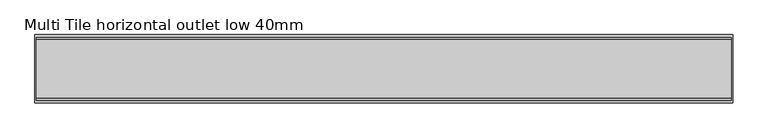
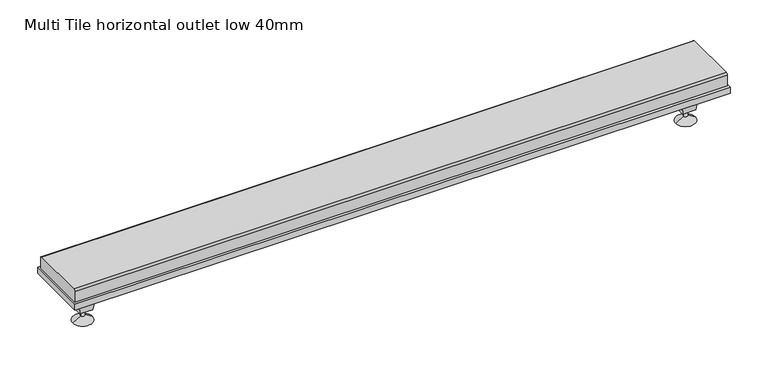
"""IFC4 building model written with IfcOpenShell, lengths in millimetres: sanitary terminal geometry, NLRS_PF_52_UN_Multi Tile uitloop_Easydrain : Multi Tile horizontal outlet low 40mm."""

from ifc_helpers import new_model, si_unit, point, frame, frame_2d, origin, place, context, project, spatial, polyline, circle_curve, trimmed, segment, composite_curve, outline, extrude, faceted_brep, source, transform, mapped, element, save
from ifc_brep_helpers import plane_surface, cylinder_surface, revolved_surface, advanced_brep


def multi_tile_horizontal_outlet_low_40mm_311f17a8(model_context):
    return source(origin(), model_context, "Body", "SolidModel", [
        advanced_brep(
        [(713.0, 0.0, -70.0), (707.0, 0.0, -70.0), (710.0, 0.0, -70.0), (713.0, 0.0, -81.5), (707.0, 0.0, -81.5), (725.0, 0.0, -89.0), (695.0, 0.0, -89.0), (710.0, 0.0, -89.0)],
        [
            (0, 1, circle_curve(frame((710.0, 0.0, -70.0), z_axis=(0.0, 0.0, 1.0), x_axis=(-1.0, 0.0, 0.0)), 3.0)),
            (1, 2),
            (2, 0),
            (1, 0, circle_curve(frame((710.0, 0.0, -70.0), z_axis=(0.0, 0.0, 1.0), x_axis=(-1.0, 0.0, 0.0)), 3.0)),
            (3, 4, circle_curve(frame((710.0, 0.0, -81.5), z_axis=(0.0, 0.0, 1.0), x_axis=(-1.0, 0.0, 0.0)), 3.0)),
            (4, 1),
            (0, 3),
            (4, 3, circle_curve(frame((710.0, 0.0, -81.5), z_axis=(0.0, 0.0, 1.0), x_axis=(-1.0, 0.0, 0.0)), 3.0)),
            (5, 6, circle_curve(frame((710.0, 0.0, -89.0), z_axis=(0.0, 0.0, 1.0), x_axis=(-1.0, 0.0, 0.0)), 15.0)),
            (6, 4),
            (3, 5),
            (6, 5, circle_curve(frame((710.0, 0.0, -89.0), z_axis=(0.0, 0.0, 1.0), x_axis=(-1.0, 0.0, 0.0)), 15.0)),
            (7, 6),
            (5, 7),
        ],
        [
            plane_surface(frame((710.0, 0.0, -70.0), z_axis=(0.0, 0.0, 1.0), x_axis=(-1.0, 0.0, 0.0))),
            cylinder_surface(frame((710.0, 0.0, -97.1782032), z_axis=(0.0, 0.0, -1.0), x_axis=(-1.0, 0.0, 0.0)), 3.0),
            revolved_surface(polyline([(707.0, 0.0, -81.5), (695.0, 0.0, -89.0)]), (710.0, 0.0, -97.1782032), (0.0, 0.0, -1.0)),
            plane_surface(frame((710.0, 0.0, -89.0), z_axis=(0.0, 0.0, -1.0), x_axis=(-1.0, 0.0, 0.0))),
        ],
        [
            (0, [[1, 2, 3]]),
            (0, [[4, -3, -2]]),
            (1, [[5, 6, -1, 7]]),
            (1, [[8, -7, -4, -6]]),
            (2, [[9, 10, -5, 11]]),
            (2, [[12, -11, -8, -10]]),
            (3, [[13, -9, 14]]),
            (3, [[-14, -12, -13]]),
        ],
    ),
        faceted_brep([(700.0, 10.0, -70.0), (720.0, 10.0, -70.0), (720.0, -10.0, -70.0), (700.0, -10.0, -70.0), (695.0, 15.0, -30.0), (695.0, -15.0, -30.0), (725.0, -15.0, -30.0), (725.0, 15.0, -30.0)], [[[0, 1, 2, 3]], [[4, 5, 6, 7]], [[5, 4, 0, 3]], [[6, 5, 3, 2]], [[7, 6, 2, 1]], [[4, 7, 1, 0]]]),
        advanced_brep(
        [(-207.0, 0.0, -70.0), (-213.0, 0.0, -70.0), (-210.0, 0.0, -70.0), (-207.0, 0.0, -81.5), (-213.0, 0.0, -81.5), (-195.0, 0.0, -89.0), (-225.0, 0.0, -89.0), (-210.0, 0.0, -89.0)],
        [
            (0, 1, circle_curve(frame((-210.0, 0.0, -70.0), z_axis=(0.0, 0.0, 1.0), x_axis=(-1.0, 0.0, 0.0)), 3.0)),
            (1, 2),
            (2, 0),
            (1, 0, circle_curve(frame((-210.0, 0.0, -70.0), z_axis=(0.0, 0.0, 1.0), x_axis=(-1.0, 0.0, 0.0)), 3.0)),
            (3, 4, circle_curve(frame((-210.0, 0.0, -81.5), z_axis=(0.0, 0.0, 1.0), x_axis=(-1.0, 0.0, 0.0)), 3.0)),
            (4, 1),
            (0, 3),
            (4, 3, circle_curve(frame((-210.0, 0.0, -81.5), z_axis=(0.0, 0.0, 1.0), x_axis=(-1.0, 0.0, 0.0)), 3.0)),
            (5, 6, circle_curve(frame((-210.0, 0.0, -89.0), z_axis=(0.0, 0.0, 1.0), x_axis=(-1.0, 0.0, 0.0)), 15.0)),
            (6, 4),
            (3, 5),
            (6, 5, circle_curve(frame((-210.0, 0.0, -89.0), z_axis=(0.0, 0.0, 1.0), x_axis=(-1.0, 0.0, 0.0)), 15.0)),
            (7, 6),
            (5, 7),
        ],
        [
            plane_surface(frame((-210.0, 0.0, -70.0), z_axis=(0.0, 0.0, 1.0), x_axis=(-1.0, 0.0, 0.0))),
            cylinder_surface(frame((-210.0, 0.0, -97.1782032), z_axis=(0.0, 0.0, -1.0), x_axis=(-1.0, 0.0, 0.0)), 3.0),
            revolved_surface(polyline([(-213.0, 0.0, -81.5), (-225.0, 0.0, -89.0)]), (-210.0, 0.0, -97.1782032), (0.0, 0.0, -1.0)),
            plane_surface(frame((-210.0, 0.0, -89.0), z_axis=(0.0, 0.0, -1.0), x_axis=(-1.0, 0.0, 0.0))),
        ],
        [
            (0, [[1, 2, 3]]),
            (0, [[4, -3, -2]]),
            (1, [[5, 6, -1, 7]]),
            (1, [[8, -7, -4, -6]]),
            (2, [[9, 10, -5, 11]]),
            (2, [[12, -11, -8, -10]]),
            (3, [[13, -9, 14]]),
            (3, [[-14, -12, -13]]),
        ],
    ),
        faceted_brep([(-220.0, 10.0, -70.0), (-200.0, 10.0, -70.0), (-200.0, -10.0, -70.0), (-220.0, -10.0, -70.0), (-225.0, 15.0, -30.0), (-225.0, -15.0, -30.0), (-195.0, -15.0, -30.0), (-195.0, 15.0, -30.0)], [[[0, 1, 2, 3]], [[4, 5, 6, 7]], [[5, 4, 0, 3]], [[6, 5, 3, 2]], [[7, 6, 2, 1]], [[4, 7, 1, 0]]]),
        extrude(outline(composite_curve([segment(polyline([(-42.0, 0.0), (42.0, 0.0)]), True, "CONTINUOUS"), segment(trimmed(circle_curve(frame_2d((42.0, -3.0)), 3.0), [point((42.0, 0.0))], [point((45.0, -3.0))], False, "CARTESIAN"), True, "CONTINUOUS"), segment(polyline([(45.0, -3.0), (45.0, -20.0), (-45.0, -20.0), (-45.0, -3.0)]), True, "CONTINUOUS"), segment(trimmed(circle_curve(frame_2d((-42.0, -3.0)), 3.0), [point((-45.0, -3.0))], [point((-42.0, 0.0))], False, "CARTESIAN"), True, "CONTINUOUS")], self_intersect=False)), frame((-248.0, 0.0, 0.0), z_axis=(1.0, 0.0, 0.0), x_axis=(0.0, 1.0, 0.0)), (0.0, 0.0, 1.0), 996.0),
        extrude(outline(polyline([(750.0, -49.0), (-250.0, -49.0), (-250.0, 49.0), (750.0, 49.0), (750.0, -49.0)])), frame((0.0, 0.0, -30.0), z_axis=(0.0, 0.0, 1.0), x_axis=(1.0, 0.0, 0.0)), (0.0, 0.0, 1.0), 10.0),
    ])


if __name__ == "__main__":
    model = new_model("IFC4")
    model_context = context("Model", 3, world=origin())
    ifc_project = project(units=[si_unit("LENGTHUNIT", "METRE", prefix="MILLI")], contexts=[model_context])
    site = spatial("IfcSite", under=ifc_project)
    building = spatial("IfcBuilding", under=site)
    placement = place(None, origin())
    multi_tile_horizontal_outlet_low_40mm_shape = multi_tile_horizontal_outlet_low_40mm_311f17a8(model_context)
    element("IfcSanitaryTerminal", 1, ObjectType="NLRS_PF_52_UN_Multi Tile uitloop_Easydrain : Multi Tile horizontal outlet low 40mm", at=placement, inside=building, context=model_context, shape_type="MappedRepresentation", body=[
        mapped(multi_tile_horizontal_outlet_low_40mm_shape, transform((0.0, 0.0, 0.0), x_axis=(1.0, 0.0, 0.0), y_axis=(0.0, 1.0, 0.0), z_axis=(0.0, 0.0, 1.0))),
    ])
    save(model, "model.ifc")
